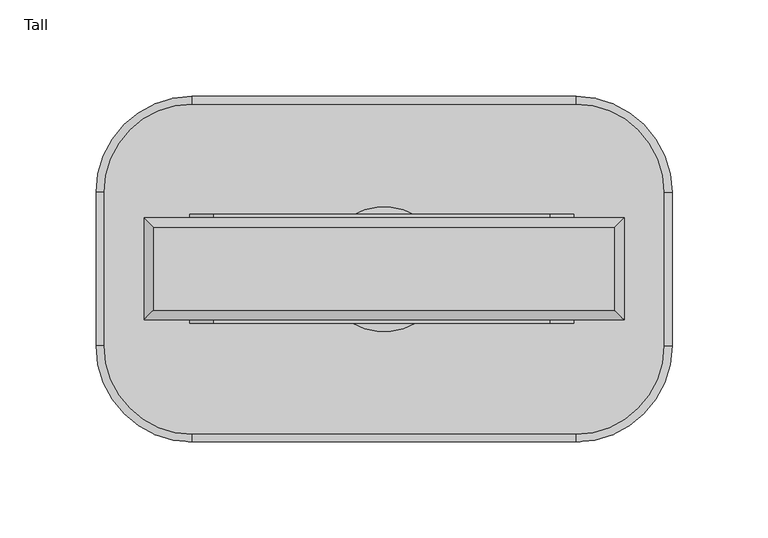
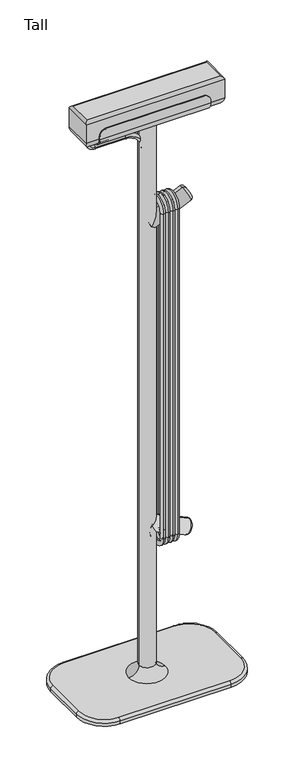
"""IFC4 building model written with IfcOpenShell, lengths in millimetres: furniture geometry, Steelcase EMEA - Flex - Powerstand : Tall."""

from ifc_helpers import new_model, si_unit, point, frame, origin, place, context, project, spatial, polyline, circle_curve, ellipse_curve, trimmed, source, transform, mapped, element, save
from ifc_brep_helpers import plane_surface, cylinder_surface, revolved_surface, advanced_brep


def tall_e2d5bbf9(model_context):
    return source(origin(), model_context, "Body", "AdvancedBrep", [
        advanced_brep(
        [(98.8922673, 26.5, 1076.9), (98.8922673, 11.5, 1061.9), (98.8922673, -11.5, 1061.9), (98.8922673, -26.5, 1076.9), (98.8922673, -26.5, 1081.5), (98.8922673, -28.4, 1081.5), (98.8922673, -28.4, 1076.9010878), (98.8922673, -11.4989122, 1060.0), (98.8922673, 11.5, 1060.0), (98.8922673, 28.4, 1076.9), (98.8922673, 28.4, 1081.5), (98.8922673, 26.5, 1081.5), (-101.1077081, 28.4, 1076.9), (-101.1077081, 11.5, 1060.0), (-101.1077081, -11.4989122, 1060.0), (-101.1077081, -28.4, 1076.9010878), (-101.1077081, -28.4, 1081.5), (-101.1077081, -26.5, 1081.5), (-101.1077081, -26.5, 1076.9), (-101.1077081, -11.5, 1061.9), (-101.1077081, 11.5, 1061.9), (-101.1077081, 26.5, 1076.9), (-101.1077081, 26.5, 1081.5), (-101.1077081, 28.4, 1081.5), (86.3922673, 26.5, 1094.0), (-88.6077081, 26.5, 1094.0), (-88.6077081, -26.5, 1094.0), (86.3922673, -26.5, 1094.0), (-88.6077081, -28.4, 1094.0), (86.3922673, -28.4, 1094.0), (-88.6077081, 28.4, 1094.0), (86.3922673, 28.4, 1094.0)],
        [
            (0, 1, circle_curve(frame((98.8922673, 11.5, 1076.9), z_axis=(-1.0, 0.0, 0.0), x_axis=(0.0, 1.0, 0.0)), 15.0)),
            (1, 2),
            (2, 3, circle_curve(frame((98.8922673, -11.5, 1076.9), z_axis=(-1.0, 0.0, 0.0), x_axis=(0.0, 1.0, 0.0)), 15.0)),
            (3, 4),
            (4, 5),
            (5, 6),
            (6, 7, circle_curve(frame((98.8922673, -11.4989122, 1076.9010878), z_axis=(1.0, 0.0, 0.0), x_axis=(0.0, 1.0, 0.0)), 16.9010878)),
            (7, 8),
            (8, 9, circle_curve(frame((98.8922673, 11.5, 1076.9), z_axis=(1.0, 0.0, 0.0), x_axis=(0.0, 1.0, 0.0)), 16.9)),
            (9, 10),
            (10, 11),
            (11, 0),
            (12, 13, circle_curve(frame((-101.1077081, 11.5, 1076.9), z_axis=(-1.0, 0.0, 0.0), x_axis=(0.0, 1.0, 0.0)), 16.9)),
            (13, 14),
            (14, 15, circle_curve(frame((-101.1077081, -11.4989122, 1076.9010878), z_axis=(-1.0, 0.0, 0.0), x_axis=(0.0, 1.0, 0.0)), 16.9010878)),
            (15, 16),
            (16, 17),
            (17, 18),
            (18, 19, circle_curve(frame((-101.1077081, -11.5, 1076.9), z_axis=(1.0, 0.0, 0.0), x_axis=(0.0, 1.0, 0.0)), 15.0)),
            (19, 20),
            (20, 21, circle_curve(frame((-101.1077081, 11.5, 1076.9), z_axis=(1.0, 0.0, 0.0), x_axis=(0.0, 1.0, 0.0)), 15.0)),
            (21, 22),
            (22, 23),
            (23, 12),
            (21, 0),
            (11, 24, circle_curve(frame((86.3922673, 26.5, 1081.5), z_axis=(0.0, -1.0, 0.0), x_axis=(1.0, 0.0, 0.0)), 12.5)),
            (24, 25),
            (25, 22, circle_curve(frame((-88.6077081, 26.5, 1081.5), z_axis=(0.0, -1.0, 0.0), x_axis=(1.0, 0.0, 0.0)), 12.5)),
            (20, 1),
            (19, 2),
            (18, 3),
            (17, 26, circle_curve(frame((-88.6077081, -26.5, 1081.5), z_axis=(0.0, 1.0, 0.0), x_axis=(1.0, 0.0, 0.0)), 12.5)),
            (26, 27),
            (27, 4, circle_curve(frame((86.3922673, -26.5, 1081.5), z_axis=(0.0, 1.0, 0.0), x_axis=(1.0, 0.0, 0.0)), 12.5)),
            (26, 28),
            (28, 29),
            (29, 27),
            (15, 6),
            (5, 29, circle_curve(frame((86.3922673, -28.4, 1081.5), z_axis=(0.0, -1.0, 0.0), x_axis=(1.0, 0.0, 0.0)), 12.5)),
            (28, 16, circle_curve(frame((-88.6077081, -28.4, 1081.5), z_axis=(0.0, -1.0, 0.0), x_axis=(1.0, 0.0, 0.0)), 12.5)),
            (14, 7),
            (13, 8),
            (12, 9),
            (23, 30, circle_curve(frame((-88.6077081, 28.4, 1081.5), z_axis=(0.0, 1.0, 0.0), x_axis=(1.0, 0.0, 0.0)), 12.5)),
            (30, 31),
            (31, 10, circle_curve(frame((86.3922673, 28.4, 1081.5), z_axis=(0.0, 1.0, 0.0), x_axis=(1.0, 0.0, 0.0)), 12.5)),
            (24, 31),
            (30, 25),
        ],
        [
            plane_surface(frame((98.8922673, 26.5, 1094.0), z_axis=(1.0, 0.0, 0.0), x_axis=(0.0, 0.0, -1.0))),
            plane_surface(frame((-101.1077081, 26.5, 1094.0), z_axis=(-1.0, 0.0, 0.0), x_axis=(0.0, 0.0, 1.0))),
            plane_surface(frame((98.8922673, 26.5, 1094.0), z_axis=(0.0, -1.0, 0.0), x_axis=(-1.0, 0.0, 0.0))),
            revolved_surface(polyline([(-101.1077081, 26.5, 1076.9), (98.89226729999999, 26.5, 1076.9)]), (-101.1077081, 11.5, 1076.9), (-1.0, 0.0, 0.0)),
            plane_surface(frame((98.8922673, 11.5, 1061.9), z_axis=(0.0, 0.0, 1.0), x_axis=(-1.0, 0.0, 0.0))),
            revolved_surface(polyline([(-101.1077081, 3.5, 1076.9), (98.89226729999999, 3.5, 1076.9)]), (-101.1077081, -11.5, 1076.9), (-1.0, 0.0, 0.0)),
            plane_surface(frame((98.8922673, -26.5, 1076.9), z_axis=(0.0, 1.0, 0.0), x_axis=(-1.0, 0.0, 0.0))),
            plane_surface(frame((98.8922673, -26.5, 1094.0), z_axis=(0.0, 0.0, 1.0), x_axis=(-1.0, 0.0, 0.0))),
            plane_surface(frame((98.8922673, -28.4, 1094.0), z_axis=(0.0, -1.0, 0.0), x_axis=(-1.0, 0.0, 0.0))),
            cylinder_surface(frame((-101.1077081, -11.4989122, 1076.9010878), z_axis=(1.0, 0.0, 0.0), x_axis=(0.0, 1.0, 0.0)), 16.9010878),
            plane_surface(frame((98.8922673, -11.4989122, 1060.0), z_axis=(0.0, 0.0, -1.0), x_axis=(-1.0, 0.0, 0.0))),
            cylinder_surface(frame((-101.1077081, 11.5, 1076.9), z_axis=(1.0, 0.0, 0.0), x_axis=(0.0, 1.0, 0.0)), 16.9),
            plane_surface(frame((98.8922673, 28.4, 1076.9), z_axis=(0.0, 1.0, 0.0), x_axis=(-1.0, 0.0, 0.0))),
            plane_surface(frame((98.8922673, 28.4, 1094.0), z_axis=(0.0, 0.0, 1.0), x_axis=(-1.0, 0.0, 0.0))),
            cylinder_surface(frame((-88.6077081, 90.0, 1081.5), z_axis=(0.0, 1.0, 0.0), x_axis=(1.0, 0.0, 0.0)), 12.5),
            cylinder_surface(frame((86.3922673, 90.0, 1081.5), z_axis=(0.0, 1.0, 0.0), x_axis=(1.0, 0.0, 0.0)), 12.5),
        ],
        [
            (0, [[1, 2, 3, 4, 5, 6, 7, 8, 9, 10, 11, 12]]),
            (1, [[13, 14, 15, 16, 17, 18, 19, 20, 21, 22, 23, 24]]),
            (2, [[25, -12, 26, 27, 28, -22]]),
            (3, [[-1, -25, -21, 29]]),
            (4, [[-2, -29, -20, 30]]),
            (5, [[-3, -30, -19, 31]]),
            (6, [[-31, -18, 32, 33, 34, -4]]),
            (7, [[-33, 35, 36, 37]]),
            (8, [[38, -6, 39, -36, 40, -16]]),
            (9, [[-7, -38, -15, 41]]),
            (10, [[-8, -41, -14, 42]]),
            (11, [[-9, -42, -13, 43]]),
            (12, [[-43, -24, 44, 45, 46, -10]]),
            (13, [[-27, 47, -45, 48]]),
            (14, [[-17, -40, -35, -32]]),
            (14, [[-23, -28, -48, -44]]),
            (15, [[-5, -34, -37, -39]]),
            (15, [[-11, -46, -47, -26]]),
        ],
    ),
        advanced_brep(
        [(-105.852797, 4.0, 1075.8013473), (-105.852797, -4.0, 1075.8013473), (-105.852797, 4.0, 1054.9704551), (-105.852797, -4.0, 1054.9704551), (-95.852797, -4.0, 1044.9704551), (-95.852797, 4.0, 1044.9704551), (-40.852797, 4.0, 1044.9704551), (-40.852797, -4.0, 1044.9704551), (-5.852797, -4.0, 1009.9704551), (-5.852797, 4.0, 1009.9704551), (-5.852797, 4.0, 1006.8590643), (-5.852797, -4.0, 1006.8590643)],
        [
            (0, 1, circle_curve(frame((-105.852797, 0.0, 1075.8013473), z_axis=(0.0, 0.0, 1.0), x_axis=(0.0, -1.0, 0.0)), 4.0)),
            (1, 0, circle_curve(frame((-105.852797, 0.0, 1075.8013473), z_axis=(0.0, 0.0, 1.0), x_axis=(0.0, -1.0, 0.0)), 4.0)),
            (0, 2),
            (2, 3, circle_curve(frame((-105.852797, 0.0, 1054.9704551), z_axis=(0.0, 0.0, 1.0), x_axis=(0.0, -1.0, 0.0)), 4.0)),
            (3, 1),
            (3, 2, circle_curve(frame((-105.852797, 0.0, 1054.9704551), z_axis=(0.0, 0.0, 1.0), x_axis=(0.0, -1.0, 0.0)), 4.0)),
            (4, 3, circle_curve(frame((-95.852797, -4.0, 1054.9704551), z_axis=(0.0, 1.0, 0.0), x_axis=(-1.0, 0.0, 0.0)), 10.0)),
            (2, 5, circle_curve(frame((-95.852797, 4.0, 1054.9704551), z_axis=(0.0, -1.0, 0.0), x_axis=(-1.0, 0.0, 0.0)), 10.0)),
            (5, 4, circle_curve(frame((-95.852797, 0.0, 1044.9704551), z_axis=(-1.0, 0.0, 0.0), x_axis=(0.0, -1.0, 0.0)), 4.0)),
            (4, 5, circle_curve(frame((-95.852797, 0.0, 1044.9704551), z_axis=(-1.0, 0.0, 0.0), x_axis=(0.0, -1.0, 0.0)), 4.0)),
            (5, 6),
            (6, 7, circle_curve(frame((-40.852797, 0.0, 1044.9704551), z_axis=(-1.0, 0.0, 0.0), x_axis=(0.0, -1.0, 0.0)), 4.0)),
            (7, 4),
            (7, 6, circle_curve(frame((-40.852797, 0.0, 1044.9704551), z_axis=(-1.0, 0.0, 0.0), x_axis=(0.0, -1.0, 0.0)), 4.0)),
            (8, 7, circle_curve(frame((-40.852797, -4.0, 1009.9704551), z_axis=(0.0, -1.0, 0.0), x_axis=(0.0, 0.0, 1.0)), 35.0)),
            (6, 9, circle_curve(frame((-40.852797, 4.0, 1009.9704551), z_axis=(0.0, 1.0, 0.0), x_axis=(0.0, 0.0, 1.0)), 35.0)),
            (9, 8, circle_curve(frame((-5.852797, 0.0, 1009.9704551), z_axis=(0.0, 0.0, 1.0), x_axis=(0.0, -1.0, 0.0)), 4.0)),
            (8, 9, circle_curve(frame((-5.852797, 0.0, 1009.9704551), z_axis=(0.0, 0.0, 1.0), x_axis=(0.0, -1.0, 0.0)), 4.0)),
            (10, 11, circle_curve(frame((-5.852797, 0.0, 1006.8590643), z_axis=(0.0, 0.0, -1.0), x_axis=(0.0, -1.0, 0.0)), 4.0)),
            (11, 10, circle_curve(frame((-5.852797, 0.0, 1006.8590643), z_axis=(0.0, 0.0, -1.0), x_axis=(0.0, -1.0, 0.0)), 4.0)),
            (9, 10),
            (11, 8),
        ],
        [
            plane_surface(frame((-105.852797, 0.0, 1075.8013473), z_axis=(0.0, 0.0, 1.0), x_axis=(0.0, -1.0, 0.0))),
            cylinder_surface(frame((-105.852797, 0.0, 1075.8013473), z_axis=(0.0, 0.0, 1.0), x_axis=(0.0, -1.0, 0.0)), 4.0),
            revolved_surface(trimmed(ellipse_curve(frame((-105.852797, 0.0, 1054.9704551), z_axis=(0.0, 0.0, 1.0), x_axis=(0.0, -1.0, 0.0)), 4.0, 4.0), [point((-105.852797, 4.0, 1054.9704551))], [point((-105.852797, -4.0, 1054.9704551))], True, "CARTESIAN"), (-95.852797, 0.0, 1054.9704551), (0.0, -1.0, 0.0)),
            revolved_surface(trimmed(ellipse_curve(frame((-105.852797, 0.0, 1054.9704551), z_axis=(0.0, 0.0, 1.0), x_axis=(0.0, -1.0, 0.0)), 4.0, 4.0), [point((-105.852797, -4.0, 1054.9704551))], [point((-105.852797, 4.0, 1054.9704551))], True, "CARTESIAN"), (-95.852797, 0.0, 1054.9704551), (0.0, -1.0, 0.0)),
            cylinder_surface(frame((-95.852797, 0.0, 1044.9704551), z_axis=(-1.0, 0.0, 0.0), x_axis=(0.0, -1.0, 0.0)), 4.0),
            revolved_surface(trimmed(ellipse_curve(frame((-40.852797, 0.0, 1044.9704551), z_axis=(-1.0, 0.0, 0.0), x_axis=(0.0, -1.0, 0.0)), 4.0, 4.0), [point((-40.852797, 4.0, 1044.9704551))], [point((-40.852797, -4.0, 1044.9704551))], True, "CARTESIAN"), (-40.852797, 0.0, 1009.9704551), (0.0, 1.0, 0.0)),
            revolved_surface(trimmed(ellipse_curve(frame((-40.852797, 0.0, 1044.9704551), z_axis=(-1.0, 0.0, 0.0), x_axis=(0.0, -1.0, 0.0)), 4.0, 4.0), [point((-40.852797, -4.0, 1044.9704551))], [point((-40.852797, 4.0, 1044.9704551))], True, "CARTESIAN"), (-40.852797, 0.0, 1009.9704551), (0.0, 1.0, 0.0)),
            plane_surface(frame((-5.852797, 0.0, 1006.8590643), z_axis=(0.0, 0.0, -1.0), x_axis=(0.0, -1.0, 0.0))),
            cylinder_surface(frame((-5.852797, 0.0, 1009.9704551), z_axis=(0.0, 0.0, 1.0), x_axis=(0.0, -1.0, 0.0)), 4.0),
        ],
        [
            (0, [[1, 2]]),
            (1, [[-1, 3, 4, 5]]),
            (1, [[-2, -5, 6, -3]]),
            (2, [[7, -4, 8, 9]]),
            (3, [[-8, -6, -7, 10]]),
            (4, [[-9, 11, 12, 13]]),
            (4, [[-10, -13, 14, -11]]),
            (5, [[15, -12, 16, 17]]),
            (6, [[-16, -14, -15, 18]]),
            (7, [[19, 20]]),
            (8, [[-17, 21, -20, 22]]),
            (8, [[-18, -22, -19, -21]]),
        ],
    ),
        advanced_brep(
        [(125.0, -26.5, 1112.0), (125.0, -26.5, 1076.9), (125.0, 26.5, 1076.9), (125.0, 26.5, 1112.0), (-125.0, 26.5, 1112.0), (-125.0, 26.5, 1076.9), (-125.0, -26.5, 1076.9), (-125.0, -26.5, 1112.0), (110.0, 11.5, 1061.9), (110.0, -11.5, 1061.9), (-110.0, -11.5, 1061.9), (-110.0, 11.5, 1061.9), (120.0, -21.5, 1117.0), (120.0, 21.5, 1117.0), (-120.0, 21.5, 1117.0), (-120.0, -21.5, 1117.0)],
        [
            (0, 1),
            (1, 2),
            (2, 3),
            (3, 0),
            (4, 5),
            (5, 6),
            (6, 7),
            (7, 4),
            (0, 7),
            (6, 1),
            (8, 9),
            (9, 10),
            (10, 11),
            (11, 8),
            (2, 5),
            (4, 3),
            (12, 13),
            (13, 14),
            (14, 15),
            (15, 12),
            (12, 0, ellipse_curve(frame((120.0, -21.5, 1112.0), z_axis=(0.7071067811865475, 0.7071067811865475, 0.0), x_axis=(0.7071067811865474, -0.7071067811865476, 0.0)), 7.0710678, 5.0)),
            (3, 13, ellipse_curve(frame((120.0, 21.5, 1112.0), z_axis=(0.7071067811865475, -0.7071067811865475, 0.0), x_axis=(-0.7071067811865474, -0.7071067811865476, 0.0)), 7.0710678, 5.0)),
            (1, 9, ellipse_curve(frame((110.0, -11.5, 1076.9), z_axis=(0.7071067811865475, 0.7071067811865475, 0.0), x_axis=(0.7071067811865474, -0.7071067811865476, 0.0)), 21.2132034, 15.0)),
            (8, 2, ellipse_curve(frame((110.0, 11.5, 1076.9), z_axis=(0.7071067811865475, -0.7071067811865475, 0.0), x_axis=(-0.7071067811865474, -0.7071067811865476, 0.0)), 21.2132034, 15.0)),
            (15, 7, ellipse_curve(frame((-120.0, -21.5, 1112.0), z_axis=(0.7071067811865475, -0.7071067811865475, 0.0), x_axis=(-0.7071067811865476, -0.7071067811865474, 0.0)), 7.0710678, 5.0)),
            (6, 10, ellipse_curve(frame((-110.0, -11.5, 1076.9), z_axis=(0.7071067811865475, -0.7071067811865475, 0.0), x_axis=(-0.7071067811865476, -0.7071067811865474, 0.0)), 21.2132034, 15.0)),
            (14, 4, ellipse_curve(frame((-120.0, 21.5, 1112.0), z_axis=(-0.7071067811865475, -0.7071067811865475, 0.0), x_axis=(-0.7071067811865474, 0.7071067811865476, 0.0)), 7.0710678, 5.0)),
            (5, 11, ellipse_curve(frame((-110.0, 11.5, 1076.9), z_axis=(-0.7071067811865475, -0.7071067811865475, 0.0), x_axis=(-0.7071067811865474, 0.7071067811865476, 0.0)), 21.2132034, 15.0)),
        ],
        [
            plane_surface(frame((125.0, -26.5, 1117.0), z_axis=(1.0, 0.0, 0.0), x_axis=(0.0, 0.0, -1.0))),
            plane_surface(frame((-125.0, -26.5, 1117.0), z_axis=(-1.0, 0.0, 0.0), x_axis=(0.0, 0.0, 1.0))),
            plane_surface(frame((125.0, -26.5, 1117.0), z_axis=(0.0, -1.0, 0.0), x_axis=(-1.0, 0.0, 0.0))),
            plane_surface(frame((125.0, -26.5, 1061.9), z_axis=(0.0, 0.0, -1.0), x_axis=(-1.0, 0.0, 0.0))),
            plane_surface(frame((125.0, 26.5, 1061.9), z_axis=(0.0, 1.0, 0.0), x_axis=(-1.0, 0.0, 0.0))),
            plane_surface(frame((125.0, 26.5, 1117.0), z_axis=(0.0, 0.0, 1.0), x_axis=(-1.0, 0.0, 0.0))),
            cylinder_surface(frame((120.0, 26.5, 1112.0), z_axis=(0.0, -1.0, 0.0), x_axis=(1.0, 0.0, 0.0)), 5.0),
            cylinder_surface(frame((110.0, 26.5, 1076.9), z_axis=(0.0, -1.0, 0.0), x_axis=(1.0, 0.0, 0.0)), 15.0),
            cylinder_surface(frame((125.0, -21.5, 1112.0), z_axis=(-1.0, 0.0, 0.0), x_axis=(0.0, -1.0, 0.0)), 5.0),
            cylinder_surface(frame((125.0, -11.5, 1076.9), z_axis=(-1.0, 0.0, 0.0), x_axis=(0.0, -1.0, 0.0)), 15.0),
            cylinder_surface(frame((-120.0, -26.5, 1112.0), z_axis=(0.0, 1.0, 0.0), x_axis=(-1.0, 0.0, 0.0)), 5.0),
            cylinder_surface(frame((-110.0, -26.5, 1076.9), z_axis=(0.0, 1.0, 0.0), x_axis=(-1.0, 0.0, 0.0)), 15.0),
            cylinder_surface(frame((-125.0, 21.5, 1112.0), z_axis=(1.0, 0.0, 0.0), x_axis=(0.0, 1.0, 0.0)), 5.0),
            cylinder_surface(frame((-125.0, 11.5, 1076.9), z_axis=(1.0, 0.0, 0.0), x_axis=(0.0, 1.0, 0.0)), 15.0),
        ],
        [
            (0, [[1, 2, 3, 4]]),
            (1, [[5, 6, 7, 8]]),
            (2, [[-1, 9, -7, 10]]),
            (3, [[11, 12, 13, 14]]),
            (4, [[-3, 15, -5, 16]]),
            (5, [[17, 18, 19, 20]]),
            (6, [[21, -4, 22, -17]]),
            (7, [[23, -11, 24, -2]]),
            (8, [[-21, -20, 25, -9]]),
            (9, [[-23, -10, 26, -12]]),
            (10, [[-25, -19, 27, -8]]),
            (11, [[-26, -6, 28, -13]]),
            (12, [[-22, -16, -27, -18]]),
            (13, [[-24, -14, -28, -15]]),
        ],
    ),
        advanced_brep(
        [(18.0, 22.0, 890.0), (18.0, -22.0, 890.0), (18.0, -14.0, 890.0), (18.0, 14.0, 890.0), (18.0, 14.0, 270.0), (18.0, 22.0, 270.0), (18.0, -22.0, 270.0), (18.0, -14.0, 270.0)],
        [
            (0, 1, circle_curve(frame((18.0, 0.0, 890.0), z_axis=(1.0, 0.0, 0.0), x_axis=(0.0, -1.0, 0.0)), 22.0)),
            (1, 2, circle_curve(frame((18.0, -18.0, 890.0), z_axis=(0.0, 0.0, 1.0), x_axis=(0.0, -1.0, 0.0)), 4.0)),
            (2, 3, circle_curve(frame((18.0, 0.0, 890.0), z_axis=(-1.0, 0.0, 0.0), x_axis=(0.0, -1.0, 0.0)), 14.0)),
            (3, 0, circle_curve(frame((18.0, 18.0, 890.0), z_axis=(0.0, 0.0, 1.0), x_axis=(0.0, 1.0, 0.0)), 4.0)),
            (2, 1, circle_curve(frame((18.0, -18.0, 890.0), z_axis=(0.0, 0.0, 1.0), x_axis=(0.0, -1.0, 0.0)), 4.0)),
            (0, 3, circle_curve(frame((18.0, 18.0, 890.0), z_axis=(0.0, 0.0, 1.0), x_axis=(0.0, 1.0, 0.0)), 4.0)),
            (3, 4),
            (4, 5, circle_curve(frame((18.0, 18.0, 270.0), z_axis=(0.0, 0.0, 1.0), x_axis=(0.0, 1.0, 0.0)), 4.0)),
            (5, 0),
            (5, 4, circle_curve(frame((18.0, 18.0, 270.0), z_axis=(0.0, 0.0, 1.0), x_axis=(0.0, 1.0, 0.0)), 4.0)),
            (6, 5, circle_curve(frame((18.0, 0.0, 270.0), z_axis=(1.0, 0.0, 0.0), x_axis=(0.0, 1.0, 0.0)), 22.0)),
            (4, 7, circle_curve(frame((18.0, 0.0, 270.0), z_axis=(-1.0, 0.0, 0.0), x_axis=(0.0, 1.0, 0.0)), 14.0)),
            (7, 6, circle_curve(frame((18.0, -18.0, 270.0), z_axis=(0.0, 0.0, -1.0), x_axis=(0.0, -1.0, 0.0)), 4.0)),
            (6, 7, circle_curve(frame((18.0, -18.0, 270.0), z_axis=(0.0, 0.0, -1.0), x_axis=(0.0, -1.0, 0.0)), 4.0)),
            (7, 2),
            (1, 6),
        ],
        [
            revolved_surface(trimmed(ellipse_curve(frame((18.0, -18.0, 890.0), z_axis=(0.0, 0.0, -1.0), x_axis=(0.0, -1.0, 0.0)), 4.0, 4.0), [point((18.0, -14.0, 890.0))], [point((18.0, -22.0, 890.0))], True, "CARTESIAN"), (18.0, 0.0, 890.0), (-1.0, 0.0, 0.0)),
            revolved_surface(trimmed(ellipse_curve(frame((18.0, -18.0, 890.0), z_axis=(0.0, 0.0, -1.0), x_axis=(0.0, -1.0, 0.0)), 4.0, 4.0), [point((18.0, -22.0, 890.0))], [point((18.0, -14.0, 890.0))], True, "CARTESIAN"), (18.0, 0.0, 890.0), (-1.0, 0.0, 0.0)),
            cylinder_surface(frame((18.0, 18.0, 890.0), z_axis=(0.0, 0.0, 1.0), x_axis=(0.0, 1.0, 0.0)), 4.0),
            revolved_surface(trimmed(ellipse_curve(frame((18.0, 18.0, 270.0), z_axis=(0.0, 0.0, 1.0), x_axis=(0.0, 1.0, 0.0)), 4.0, 4.0), [point((18.0, 14.0, 270.0))], [point((18.0, 22.0, 270.0))], True, "CARTESIAN"), (18.0, 0.0, 270.0), (-1.0, 0.0, 0.0)),
            revolved_surface(trimmed(ellipse_curve(frame((18.0, 18.0, 270.0), z_axis=(0.0, 0.0, 1.0), x_axis=(0.0, 1.0, 0.0)), 4.0, 4.0), [point((18.0, 22.0, 270.0))], [point((18.0, 14.0, 270.0))], True, "CARTESIAN"), (18.0, 0.0, 270.0), (-1.0, 0.0, 0.0)),
            cylinder_surface(frame((18.0, -18.0, 270.0), z_axis=(0.0, 0.0, -1.0), x_axis=(0.0, -1.0, 0.0)), 4.0),
        ],
        [
            (0, [[1, 2, 3, 4]]),
            (1, [[-3, 5, -1, 6]]),
            (2, [[-4, 7, 8, 9]]),
            (2, [[-6, -9, 10, -7]]),
            (3, [[11, -8, 12, 13]]),
            (4, [[-12, -10, -11, 14]]),
            (5, [[-13, 15, -2, 16]]),
            (5, [[-14, -16, -5, -15]]),
        ],
    ),
        advanced_brep(
        [(26.5, 22.0, 890.0), (26.5, -22.0, 890.0), (26.5, -14.0, 890.0), (26.5, 14.0, 890.0), (26.5, 14.0, 270.0), (26.5, 22.0, 270.0), (26.5, -22.0, 270.0), (26.5, -14.0, 270.0)],
        [
            (0, 1, circle_curve(frame((26.5, 0.0, 890.0), z_axis=(1.0, 0.0, 0.0), x_axis=(0.0, -1.0, 0.0)), 22.0)),
            (1, 2, circle_curve(frame((26.5, -18.0, 890.0), z_axis=(0.0, 0.0, 1.0), x_axis=(0.0, -1.0, 0.0)), 4.0)),
            (2, 3, circle_curve(frame((26.5, 0.0, 890.0), z_axis=(-1.0, 0.0, 0.0), x_axis=(0.0, -1.0, 0.0)), 14.0)),
            (3, 0, circle_curve(frame((26.5, 18.0, 890.0), z_axis=(0.0, 0.0, 1.0), x_axis=(0.0, 1.0, 0.0)), 4.0)),
            (2, 1, circle_curve(frame((26.5, -18.0, 890.0), z_axis=(0.0, 0.0, 1.0), x_axis=(0.0, -1.0, 0.0)), 4.0)),
            (0, 3, circle_curve(frame((26.5, 18.0, 890.0), z_axis=(0.0, 0.0, 1.0), x_axis=(0.0, 1.0, 0.0)), 4.0)),
            (3, 4),
            (4, 5, circle_curve(frame((26.5, 18.0, 270.0), z_axis=(0.0, 0.0, 1.0), x_axis=(0.0, 1.0, 0.0)), 4.0)),
            (5, 0),
            (5, 4, circle_curve(frame((26.5, 18.0, 270.0), z_axis=(0.0, 0.0, 1.0), x_axis=(0.0, 1.0, 0.0)), 4.0)),
            (6, 5, circle_curve(frame((26.5, 0.0, 270.0), z_axis=(1.0, 0.0, 0.0), x_axis=(0.0, 1.0, 0.0)), 22.0)),
            (4, 7, circle_curve(frame((26.5, 0.0, 270.0), z_axis=(-1.0, 0.0, 0.0), x_axis=(0.0, 1.0, 0.0)), 14.0)),
            (7, 6, circle_curve(frame((26.5, -18.0, 270.0), z_axis=(0.0, 0.0, -1.0), x_axis=(0.0, -1.0, 0.0)), 4.0)),
            (6, 7, circle_curve(frame((26.5, -18.0, 270.0), z_axis=(0.0, 0.0, -1.0), x_axis=(0.0, -1.0, 0.0)), 4.0)),
            (7, 2),
            (1, 6),
        ],
        [
            revolved_surface(trimmed(ellipse_curve(frame((26.5, -18.0, 890.0), z_axis=(0.0, 0.0, -1.0), x_axis=(0.0, -1.0, 0.0)), 4.0, 4.0), [point((26.5, -14.0, 890.0))], [point((26.5, -22.0, 890.0))], True, "CARTESIAN"), (18.0, 0.0, 890.0), (-1.0, 0.0, 0.0)),
            revolved_surface(trimmed(ellipse_curve(frame((26.5, -18.0, 890.0), z_axis=(0.0, 0.0, -1.0), x_axis=(0.0, -1.0, 0.0)), 4.0, 4.0), [point((26.5, -22.0, 890.0))], [point((26.5, -14.0, 890.0))], True, "CARTESIAN"), (18.0, 0.0, 890.0), (-1.0, 0.0, 0.0)),
            cylinder_surface(frame((26.5, 18.0, 890.0), z_axis=(0.0, 0.0, 1.0), x_axis=(0.0, 1.0, 0.0)), 4.0),
            revolved_surface(trimmed(ellipse_curve(frame((26.5, 18.0, 270.0), z_axis=(0.0, 0.0, 1.0), x_axis=(0.0, 1.0, 0.0)), 4.0, 4.0), [point((26.5, 14.0, 270.0))], [point((26.5, 22.0, 270.0))], True, "CARTESIAN"), (18.0, 0.0, 270.0), (-1.0, 0.0, 0.0)),
            revolved_surface(trimmed(ellipse_curve(frame((26.5, 18.0, 270.0), z_axis=(0.0, 0.0, 1.0), x_axis=(0.0, 1.0, 0.0)), 4.0, 4.0), [point((26.5, 22.0, 270.0))], [point((26.5, 14.0, 270.0))], True, "CARTESIAN"), (18.0, 0.0, 270.0), (-1.0, 0.0, 0.0)),
            cylinder_surface(frame((26.5, -18.0, 270.0), z_axis=(0.0, 0.0, -1.0), x_axis=(0.0, -1.0, 0.0)), 4.0),
        ],
        [
            (0, [[1, 2, 3, 4]]),
            (1, [[-3, 5, -1, 6]]),
            (2, [[-4, 7, 8, 9]]),
            (2, [[-6, -9, 10, -7]]),
            (3, [[11, -8, 12, 13]]),
            (4, [[-12, -10, -11, 14]]),
            (5, [[-13, 15, -2, 16]]),
            (5, [[-14, -16, -5, -15]]),
        ],
    ),
        advanced_brep(
        [(35.0, 22.0, 890.0), (35.0, -22.0, 890.0), (35.0, -14.0, 890.0), (35.0, 14.0, 890.0), (35.0, 14.0, 270.0), (35.0, 22.0, 270.0), (35.0, -22.0, 270.0), (35.0, -14.0, 270.0)],
        [
            (0, 1, circle_curve(frame((35.0, 0.0, 890.0), z_axis=(1.0, 0.0, 0.0), x_axis=(0.0, -1.0, 0.0)), 22.0)),
            (1, 2, circle_curve(frame((35.0, -18.0, 890.0), z_axis=(0.0, 0.0, 1.0), x_axis=(0.0, -1.0, 0.0)), 4.0)),
            (2, 3, circle_curve(frame((35.0, 0.0, 890.0), z_axis=(-1.0, 0.0, 0.0), x_axis=(0.0, -1.0, 0.0)), 14.0)),
            (3, 0, circle_curve(frame((35.0, 18.0, 890.0), z_axis=(0.0, 0.0, 1.0), x_axis=(0.0, 1.0, 0.0)), 4.0)),
            (2, 1, circle_curve(frame((35.0, -18.0, 890.0), z_axis=(0.0, 0.0, 1.0), x_axis=(0.0, -1.0, 0.0)), 4.0)),
            (0, 3, circle_curve(frame((35.0, 18.0, 890.0), z_axis=(0.0, 0.0, 1.0), x_axis=(0.0, 1.0, 0.0)), 4.0)),
            (3, 4),
            (4, 5, circle_curve(frame((35.0, 18.0, 270.0), z_axis=(0.0, 0.0, 1.0), x_axis=(0.0, 1.0, 0.0)), 4.0)),
            (5, 0),
            (5, 4, circle_curve(frame((35.0, 18.0, 270.0), z_axis=(0.0, 0.0, 1.0), x_axis=(0.0, 1.0, 0.0)), 4.0)),
            (6, 5, circle_curve(frame((35.0, 0.0, 270.0), z_axis=(1.0, 0.0, 0.0), x_axis=(0.0, 1.0, 0.0)), 22.0)),
            (4, 7, circle_curve(frame((35.0, 0.0, 270.0), z_axis=(-1.0, 0.0, 0.0), x_axis=(0.0, 1.0, 0.0)), 14.0)),
            (7, 6, circle_curve(frame((35.0, -18.0, 270.0), z_axis=(0.0, 0.0, -1.0), x_axis=(0.0, -1.0, 0.0)), 4.0)),
            (6, 7, circle_curve(frame((35.0, -18.0, 270.0), z_axis=(0.0, 0.0, -1.0), x_axis=(0.0, -1.0, 0.0)), 4.0)),
            (7, 2),
            (1, 6),
        ],
        [
            revolved_surface(trimmed(ellipse_curve(frame((35.0, -18.0, 890.0), z_axis=(0.0, 0.0, -1.0), x_axis=(0.0, -1.0, 0.0)), 4.0, 4.0), [point((35.0, -14.0, 890.0))], [point((35.0, -22.0, 890.0))], True, "CARTESIAN"), (18.0, 0.0, 890.0), (-1.0, 0.0, 0.0)),
            revolved_surface(trimmed(ellipse_curve(frame((35.0, -18.0, 890.0), z_axis=(0.0, 0.0, -1.0), x_axis=(0.0, -1.0, 0.0)), 4.0, 4.0), [point((35.0, -22.0, 890.0))], [point((35.0, -14.0, 890.0))], True, "CARTESIAN"), (18.0, 0.0, 890.0), (-1.0, 0.0, 0.0)),
            cylinder_surface(frame((35.0, 18.0, 890.0), z_axis=(0.0, 0.0, 1.0), x_axis=(0.0, 1.0, 0.0)), 4.0),
            revolved_surface(trimmed(ellipse_curve(frame((35.0, 18.0, 270.0), z_axis=(0.0, 0.0, 1.0), x_axis=(0.0, 1.0, 0.0)), 4.0, 4.0), [point((35.0, 14.0, 270.0))], [point((35.0, 22.0, 270.0))], True, "CARTESIAN"), (18.0, 0.0, 270.0), (-1.0, 0.0, 0.0)),
            revolved_surface(trimmed(ellipse_curve(frame((35.0, 18.0, 270.0), z_axis=(0.0, 0.0, 1.0), x_axis=(0.0, 1.0, 0.0)), 4.0, 4.0), [point((35.0, 22.0, 270.0))], [point((35.0, 14.0, 270.0))], True, "CARTESIAN"), (18.0, 0.0, 270.0), (-1.0, 0.0, 0.0)),
            cylinder_surface(frame((35.0, -18.0, 270.0), z_axis=(0.0, 0.0, -1.0), x_axis=(0.0, -1.0, 0.0)), 4.0),
        ],
        [
            (0, [[1, 2, 3, 4]]),
            (1, [[-3, 5, -1, 6]]),
            (2, [[-4, 7, 8, 9]]),
            (2, [[-6, -9, 10, -7]]),
            (3, [[11, -8, 12, 13]]),
            (4, [[-12, -10, -11, 14]]),
            (5, [[-13, 15, -2, 16]]),
            (5, [[-14, -16, -5, -15]]),
        ],
    ),
        advanced_brep(
        [(43.5, 22.0, 890.0), (43.5, -22.0, 890.0), (43.5, -14.0, 890.0), (43.5, 14.0, 890.0), (43.5, 14.0, 270.0), (43.5, 22.0, 270.0), (43.5, -22.0, 270.0), (43.5, -14.0, 270.0)],
        [
            (0, 1, circle_curve(frame((43.5, 0.0, 890.0), z_axis=(1.0, 0.0, 0.0), x_axis=(0.0, -1.0, 0.0)), 22.0)),
            (1, 2, circle_curve(frame((43.5, -18.0, 890.0), z_axis=(0.0, 0.0, 1.0), x_axis=(0.0, -1.0, 0.0)), 4.0)),
            (2, 3, circle_curve(frame((43.5, 0.0, 890.0), z_axis=(-1.0, 0.0, 0.0), x_axis=(0.0, -1.0, 0.0)), 14.0)),
            (3, 0, circle_curve(frame((43.5, 18.0, 890.0), z_axis=(0.0, 0.0, 1.0), x_axis=(0.0, 1.0, 0.0)), 4.0)),
            (2, 1, circle_curve(frame((43.5, -18.0, 890.0), z_axis=(0.0, 0.0, 1.0), x_axis=(0.0, -1.0, 0.0)), 4.0)),
            (0, 3, circle_curve(frame((43.5, 18.0, 890.0), z_axis=(0.0, 0.0, 1.0), x_axis=(0.0, 1.0, 0.0)), 4.0)),
            (3, 4),
            (4, 5, circle_curve(frame((43.5, 18.0, 270.0), z_axis=(0.0, 0.0, 1.0), x_axis=(0.0, 1.0, 0.0)), 4.0)),
            (5, 0),
            (5, 4, circle_curve(frame((43.5, 18.0, 270.0), z_axis=(0.0, 0.0, 1.0), x_axis=(0.0, 1.0, 0.0)), 4.0)),
            (6, 5, circle_curve(frame((43.5, 0.0, 270.0), z_axis=(1.0, 0.0, 0.0), x_axis=(0.0, 1.0, 0.0)), 22.0)),
            (4, 7, circle_curve(frame((43.5, 0.0, 270.0), z_axis=(-1.0, 0.0, 0.0), x_axis=(0.0, 1.0, 0.0)), 14.0)),
            (7, 6, circle_curve(frame((43.5, -18.0, 270.0), z_axis=(0.0, 0.0, -1.0), x_axis=(0.0, -1.0, 0.0)), 4.0)),
            (6, 7, circle_curve(frame((43.5, -18.0, 270.0), z_axis=(0.0, 0.0, -1.0), x_axis=(0.0, -1.0, 0.0)), 4.0)),
            (7, 2),
            (1, 6),
        ],
        [
            revolved_surface(trimmed(ellipse_curve(frame((43.5, -18.0, 890.0), z_axis=(0.0, 0.0, -1.0), x_axis=(0.0, -1.0, 0.0)), 4.0, 4.0), [point((43.5, -14.0, 890.0))], [point((43.5, -22.0, 890.0))], True, "CARTESIAN"), (18.0, 0.0, 890.0), (-1.0, 0.0, 0.0)),
            revolved_surface(trimmed(ellipse_curve(frame((43.5, -18.0, 890.0), z_axis=(0.0, 0.0, -1.0), x_axis=(0.0, -1.0, 0.0)), 4.0, 4.0), [point((43.5, -22.0, 890.0))], [point((43.5, -14.0, 890.0))], True, "CARTESIAN"), (18.0, 0.0, 890.0), (-1.0, 0.0, 0.0)),
            cylinder_surface(frame((43.5, 18.0, 890.0), z_axis=(0.0, 0.0, 1.0), x_axis=(0.0, 1.0, 0.0)), 4.0),
            revolved_surface(trimmed(ellipse_curve(frame((43.5, 18.0, 270.0), z_axis=(0.0, 0.0, 1.0), x_axis=(0.0, 1.0, 0.0)), 4.0, 4.0), [point((43.5, 14.0, 270.0))], [point((43.5, 22.0, 270.0))], True, "CARTESIAN"), (18.0, 0.0, 270.0), (-1.0, 0.0, 0.0)),
            revolved_surface(trimmed(ellipse_curve(frame((43.5, 18.0, 270.0), z_axis=(0.0, 0.0, 1.0), x_axis=(0.0, 1.0, 0.0)), 4.0, 4.0), [point((43.5, 22.0, 270.0))], [point((43.5, 14.0, 270.0))], True, "CARTESIAN"), (18.0, 0.0, 270.0), (-1.0, 0.0, 0.0)),
            cylinder_surface(frame((43.5, -18.0, 270.0), z_axis=(0.0, 0.0, -1.0), x_axis=(0.0, -1.0, 0.0)), 4.0),
        ],
        [
            (0, [[1, 2, 3, 4]]),
            (1, [[-3, 5, -1, 6]]),
            (2, [[-4, 7, 8, 9]]),
            (2, [[-6, -9, 10, -7]]),
            (3, [[11, -8, 12, 13]]),
            (4, [[-12, -10, -11, 14]]),
            (5, [[-13, 15, -2, 16]]),
            (5, [[-14, -16, -5, -15]]),
        ],
    ),
        advanced_brep(
        [(73.9100062, 0.0, 261.529813), (70.1064418, 0.0, 253.3730429), (77.7135705, 0.0, 269.6865831), (5.9166557, 0.0, 308.6829239), (-5.9166557, 0.0, 283.3063059), (0.0, 0.0, 295.9946149), (75.2951229, 0.0, 276.3312133), (63.4618116, 0.0, 250.9545953)],
        [
            (0, 1),
            (1, 2, circle_curve(frame((73.9100062, 0.0, 261.529813), z_axis=(0.9063077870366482, 0.0, -0.4226182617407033), x_axis=(-0.4226182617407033, 0.0, -0.9063077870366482)), 9.0)),
            (2, 0),
            (2, 1, circle_curve(frame((73.9100062, 0.0, 261.529813), z_axis=(0.9063077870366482, 0.0, -0.4226182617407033), x_axis=(-0.4226182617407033, 0.0, -0.9063077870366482)), 9.0)),
            (3, 4, circle_curve(frame((0.0, 0.0, 295.9946149), z_axis=(-0.9063077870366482, 0.0, 0.4226182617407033), x_axis=(-0.4226182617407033, 0.0, -0.9063077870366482)), 14.0)),
            (4, 5),
            (5, 3),
            (4, 3, circle_curve(frame((0.0, 0.0, 295.9946149), z_axis=(-0.9063077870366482, 0.0, 0.4226182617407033), x_axis=(-0.4226182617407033, 0.0, -0.9063077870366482)), 14.0)),
            (6, 7, circle_curve(frame((69.3784672, 0.0, 263.6429043), z_axis=(-0.9063077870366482, 0.0, 0.4226182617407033), x_axis=(-0.4226182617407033, 0.0, -0.9063077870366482)), 14.0)),
            (7, 4),
            (3, 6),
            (7, 6, circle_curve(frame((69.3784672, 0.0, 263.6429043), z_axis=(-0.9063077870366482, 0.0, 0.4226182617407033), x_axis=(-0.4226182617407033, 0.0, -0.9063077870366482)), 14.0)),
            (1, 7, circle_curve(frame((65.5749029, 0.0, 255.4861342), z_axis=(0.0, 1.0, 0.0), x_axis=(1.0, 0.0, 0.0)), 5.0)),
            (6, 2, circle_curve(frame((73.1820316, 0.0, 271.7996744), z_axis=(0.0, 1.0, 0.0), x_axis=(0.6427876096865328, 0.0, -0.7660444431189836)), 5.0)),
        ],
        [
            plane_surface(frame((73.9100062, 0.0, 261.529813), z_axis=(0.9063077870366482, 0.0, -0.4226182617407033), x_axis=(-0.4226182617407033, 0.0, -0.9063077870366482))),
            plane_surface(frame((0.0, 0.0, 295.9946149), z_axis=(-0.9063077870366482, 0.0, 0.4226182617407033), x_axis=(-0.4226182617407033, 0.0, -0.9063077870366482))),
            cylinder_surface(frame((78.4415451, 0.0, 259.4167217), z_axis=(0.9063077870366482, 0.0, -0.4226182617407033), x_axis=(-0.4226182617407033, 0.0, -0.9063077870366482)), 14.0),
            revolved_surface(trimmed(ellipse_curve(frame((65.5749029, 0.0, 255.4861342), z_axis=(0.0, -1.0, 0.0), x_axis=(1.0, 0.0, 0.0)), 5.0, 5.0), [point((63.4618116, 0.0, 250.9545953))], [point((70.1064418, 0.0, 253.3730429))], True, "CARTESIAN"), (78.4415451, 0.0, 259.4167217), (0.9063077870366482, 0.0, -0.4226182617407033)),
        ],
        [
            (0, [[1, 2, 3]]),
            (0, [[-3, 4, -1]]),
            (1, [[5, 6, 7]]),
            (1, [[8, -7, -6]]),
            (2, [[9, 10, -5, 11]]),
            (2, [[12, -11, -8, -10]]),
            (3, [[-2, 13, -9, 14]]),
            (3, [[-4, -14, -12, -13]]),
        ],
    ),
        advanced_brep(
        [(5.9166557, 0.0, 853.3170761), (-5.9166557, 0.0, 878.6936941), (63.4618116, 0.0, 911.0454047), (75.2951229, 0.0, 885.6687867), (0.0, 0.0, 866.0053851), (77.7135705, 0.0, 892.3134169), (70.1064418, 0.0, 908.6269571), (73.9100062, 0.0, 900.470187)],
        [
            (0, 1, circle_curve(frame((0.0, 0.0, 866.0053851), z_axis=(0.906307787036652, 0.0, 0.4226182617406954), x_axis=(-0.4226182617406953, 0.0, 0.9063077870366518)), 14.0)),
            (1, 2),
            (2, 3, circle_curve(frame((69.3784672, 0.0, 898.3570957), z_axis=(-0.906307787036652, 0.0, -0.4226182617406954), x_axis=(-0.4226182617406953, 0.0, 0.9063077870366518)), 14.0)),
            (3, 0),
            (1, 0, circle_curve(frame((0.0, 0.0, 866.0053851), z_axis=(0.906307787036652, 0.0, 0.4226182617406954), x_axis=(-0.4226182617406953, 0.0, 0.9063077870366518)), 14.0)),
            (3, 2, circle_curve(frame((69.3784672, 0.0, 898.3570957), z_axis=(-0.906307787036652, 0.0, -0.4226182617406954), x_axis=(-0.4226182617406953, 0.0, 0.9063077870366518)), 14.0)),
            (4, 1),
            (0, 4),
            (5, 6, circle_curve(frame((73.9100062, 0.0, 900.470187), z_axis=(0.906307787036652, 0.0, 0.4226182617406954), x_axis=(-0.4226182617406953, 0.0, 0.9063077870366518)), 9.0)),
            (6, 7),
            (7, 5),
            (6, 5, circle_curve(frame((73.9100062, 0.0, 900.470187), z_axis=(0.906307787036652, 0.0, 0.4226182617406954), x_axis=(-0.4226182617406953, 0.0, 0.9063077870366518)), 9.0)),
            (2, 6, circle_curve(frame((65.5749029, 0.0, 906.5138658), z_axis=(0.0, 1.0000000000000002, 0.0), x_axis=(1.0, 0.0, 0.0)), 5.0)),
            (5, 3, circle_curve(frame((73.1820316, 0.0, 890.2003256), z_axis=(0.0, 1.0000000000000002, 0.0), x_axis=(0.6427876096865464, 0.0, 0.7660444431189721)), 5.0)),
        ],
        [
            cylinder_surface(frame((82.973084, 0.0, 904.6963696), z_axis=(-0.9063077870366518, 0.0, -0.4226182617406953), x_axis=(-0.4226182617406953, 0.0, 0.9063077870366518)), 14.0),
            plane_surface(frame((0.0, 0.0, 866.0053851), z_axis=(-0.9063077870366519, 0.0, -0.42261826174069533), x_axis=(-0.42261826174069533, 0.0, 0.9063077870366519))),
            plane_surface(frame((73.9100062, 0.0, 900.470187), z_axis=(0.9063077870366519, 0.0, 0.42261826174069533), x_axis=(-0.42261826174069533, 0.0, 0.9063077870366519))),
            revolved_surface(trimmed(ellipse_curve(frame((65.5749029, 0.0, 906.5138658), z_axis=(0.0, -1.0000000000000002, 0.0), x_axis=(1.0, 0.0, 0.0)), 5.0, 5.0), [point((70.1064418, 0.0, 908.6269571))], [point((63.4618116, 0.0, 911.0454047))], True, "CARTESIAN"), (82.973084, 0.0, 904.6963696), (-0.9063077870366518, 0.0, -0.4226182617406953)),
        ],
        [
            (0, [[1, 2, 3, 4]]),
            (0, [[5, -4, 6, -2]]),
            (1, [[7, -1, 8]]),
            (1, [[-8, -5, -7]]),
            (2, [[9, 10, 11]]),
            (2, [[12, -11, -10]]),
            (3, [[-3, 13, -9, 14]]),
            (3, [[-6, -14, -12, -13]]),
        ],
    ),
        advanced_brep(
        [(150.0, 40.0, 6.0), (100.0, 90.0, 6.0), (100.0, 86.0, 10.0), (146.0, 40.0, 10.0), (150.0, 40.0, 0.0), (100.0, 90.0, 0.0), (146.0, -40.0, 10.0), (150.0, -40.0, 6.0), (150.0, -40.0, 0.0), (100.0, -86.0, 10.0), (100.0, -90.0, 6.0), (100.0, -90.0, 0.0), (-100.0, -86.0, 10.0), (-100.0, -90.0, 6.0), (-100.0, -90.0, 0.0), (-146.0, -40.0, 10.0), (-150.0, -40.0, 6.0), (-150.0, -40.0, 0.0), (-146.0, 40.0, 10.0), (-150.0, 40.0, 6.0), (-150.0, 40.0, 0.0), (-100.0, 86.0, 10.0), (-100.0, 90.0, 6.0), (-100.0, 90.0, 0.0), (-32.5, 0.0, 10.0), (32.5, 0.0, 10.0), (14.5, 0.0, 1060.0), (-14.5, 0.0, 1060.0), (0.0, 0.0, 1060.0), (14.5, 0.0, 28.0), (-14.5, 0.0, 28.0)],
        [
            (0, 1, circle_curve(frame((100.0, 40.0, 6.0), z_axis=(0.0, 0.0, 1.0), x_axis=(0.0, 1.0, 0.0)), 50.0)),
            (1, 2, circle_curve(frame((100.0, 86.0, 6.0), z_axis=(1.0, 0.0, 0.0), x_axis=(0.0, 1.0, 0.0)), 4.0)),
            (2, 3, circle_curve(frame((100.0, 40.0, 10.0), z_axis=(0.0, 0.0, -1.0), x_axis=(0.0, 1.0, 0.0)), 46.0)),
            (3, 0, circle_curve(frame((146.0, 40.0, 6.0), z_axis=(0.0, 1.0, 0.0), x_axis=(1.0, 0.0, 0.0)), 4.0)),
            (0, 4),
            (4, 5, circle_curve(frame((100.0, 40.0, 0.0), z_axis=(0.0, 0.0, 1.0), x_axis=(0.0, 1.0, 0.0)), 50.0)),
            (5, 1),
            (3, 6),
            (6, 7, circle_curve(frame((146.0, -40.0, 6.0), z_axis=(0.0, 1.0, 0.0), x_axis=(1.0, 0.0, 0.0)), 4.0)),
            (7, 0),
            (7, 8),
            (8, 4),
            (6, 9, circle_curve(frame((100.0, -40.0, 10.0), z_axis=(0.0, 0.0, -1.0), x_axis=(1.0, 0.0, 0.0)), 46.0)),
            (9, 10, circle_curve(frame((100.0, -86.0, 6.0), z_axis=(1.0, 0.0, 0.0), x_axis=(0.0, -1.0, 0.0)), 4.0)),
            (10, 7, circle_curve(frame((100.0, -40.0, 6.0), z_axis=(0.0, 0.0, 1.0), x_axis=(1.0, 0.0, 0.0)), 50.0)),
            (10, 11),
            (11, 8, circle_curve(frame((100.0, -40.0, 0.0), z_axis=(0.0, 0.0, 1.0), x_axis=(1.0, 0.0, 0.0)), 50.0)),
            (9, 12),
            (12, 13, circle_curve(frame((-100.0, -86.0, 6.0), z_axis=(1.0, 0.0, 0.0), x_axis=(0.0, -1.0, 0.0)), 4.0)),
            (13, 10),
            (13, 14),
            (14, 11),
            (12, 15, circle_curve(frame((-100.0, -40.0, 10.0), z_axis=(0.0, 0.0, -1.0), x_axis=(0.0, -1.0, 0.0)), 46.0)),
            (15, 16, circle_curve(frame((-146.0, -40.0, 6.0), z_axis=(0.0, -1.0, 0.0), x_axis=(-1.0, 0.0, 0.0)), 4.0)),
            (16, 13, circle_curve(frame((-100.0, -40.0, 6.0), z_axis=(0.0, 0.0, 1.0), x_axis=(0.0, -1.0, 0.0)), 50.0)),
            (16, 17),
            (17, 14, circle_curve(frame((-100.0, -40.0, 0.0), z_axis=(0.0, 0.0, 1.0), x_axis=(0.0, -1.0, 0.0)), 50.0)),
            (15, 18),
            (18, 19, circle_curve(frame((-146.0, 40.0, 6.0), z_axis=(0.0, -1.0, 0.0), x_axis=(-1.0, 0.0, 0.0)), 4.0)),
            (19, 16),
            (19, 20),
            (20, 17),
            (18, 21, circle_curve(frame((-100.0, 40.0, 10.0), z_axis=(0.0, 0.0, -1.0), x_axis=(-1.0, 0.0, 0.0)), 46.0)),
            (21, 22, circle_curve(frame((-100.0, 86.0, 6.0), z_axis=(-1.0, 0.0, 0.0), x_axis=(0.0, 1.0, 0.0)), 4.0)),
            (22, 19, circle_curve(frame((-100.0, 40.0, 6.0), z_axis=(0.0, 0.0, 1.0), x_axis=(-1.0, 0.0, 0.0)), 50.0)),
            (22, 23),
            (23, 20, circle_curve(frame((-100.0, 40.0, 0.0), z_axis=(0.0, 0.0, 1.0), x_axis=(-1.0, 0.0, 0.0)), 50.0)),
            (1, 22),
            (21, 2),
            (5, 23),
            (24, 25, circle_curve(frame((0.0, 0.0, 10.0), z_axis=(0.0, 0.0, -1.0), x_axis=(-1.0, 0.0, 0.0)), 32.5)),
            (25, 24, circle_curve(frame((0.0, 0.0, 10.0), z_axis=(0.0, 0.0, -1.0), x_axis=(-1.0, 0.0, 0.0)), 32.5)),
            (26, 27, circle_curve(frame((0.0, 0.0, 1060.0), z_axis=(0.0, 0.0, 1.0), x_axis=(-1.0, 0.0, 0.0)), 14.5)),
            (27, 28),
            (28, 26),
            (27, 26, circle_curve(frame((0.0, 0.0, 1060.0), z_axis=(0.0, 0.0, 1.0), x_axis=(-1.0, 0.0, 0.0)), 14.5)),
            (26, 29),
            (29, 30, circle_curve(frame((0.0, 0.0, 28.0), z_axis=(0.0, 0.0, 1.0), x_axis=(-1.0, 0.0, 0.0)), 14.5)),
            (30, 27),
            (30, 29, circle_curve(frame((0.0, 0.0, 28.0), z_axis=(0.0, 0.0, 1.0), x_axis=(-1.0, 0.0, 0.0)), 14.5)),
            (29, 25, circle_curve(frame((32.5, 0.0, 28.0), z_axis=(0.0, -1.0, 0.0), x_axis=(-1.0, 0.0, 0.0)), 18.0)),
            (24, 30, circle_curve(frame((-32.5, 0.0, 28.0), z_axis=(0.0, -1.0, 0.0), x_axis=(1.0, 0.0, 0.0)), 18.0)),
        ],
        [
            revolved_surface(trimmed(ellipse_curve(frame((100.0, 86.0, 6.0), z_axis=(-1.0, 0.0, 0.0), x_axis=(0.0, 1.0, 0.0)), 4.0, 4.0), [point((100.0, 86.0, 10.0))], [point((100.0, 90.0, 6.0))], True, "CARTESIAN"), (100.0, 40.0, 0.0), (0.0, 0.0, -1.0)),
            cylinder_surface(frame((100.0, 40.0, 0.0), z_axis=(0.0, 0.0, -1.0), x_axis=(0.0, 1.0, 0.0)), 50.0),
            cylinder_surface(frame((146.0, 40.0, 6.0), z_axis=(0.0, 1.0, 0.0), x_axis=(1.0, 0.0, 0.0)), 4.0),
            plane_surface(frame((150.0, 40.0, 6.0), z_axis=(1.0, 0.0, 0.0), x_axis=(0.0, -1.0, 0.0))),
            revolved_surface(trimmed(ellipse_curve(frame((146.0, -40.0, 6.0), z_axis=(0.0, 1.0, 0.0), x_axis=(1.0, 0.0, 0.0)), 4.0, 4.0), [point((146.0, -40.0, 10.0))], [point((150.0, -40.0, 6.0))], True, "CARTESIAN"), (100.0, -40.0, 0.0), (0.0, 0.0, -1.0)),
            cylinder_surface(frame((100.0, -40.0, 0.0), z_axis=(0.0, 0.0, -1.0), x_axis=(1.0, 0.0, 0.0)), 50.0),
            cylinder_surface(frame((100.0, -86.0, 6.0), z_axis=(1.0, 0.0, 0.0), x_axis=(0.0, -1.0, 0.0)), 4.0),
            plane_surface(frame((100.0, -90.0, 6.0), z_axis=(0.0, -1.0, 0.0), x_axis=(-1.0, 0.0, 0.0))),
            revolved_surface(trimmed(ellipse_curve(frame((-100.0, -86.0, 6.0), z_axis=(1.0, 0.0, 0.0), x_axis=(0.0, -1.0, 0.0)), 4.0, 4.0), [point((-100.0, -86.0, 10.0))], [point((-100.0, -90.0, 6.0))], True, "CARTESIAN"), (-100.0, -40.0, 0.0), (0.0, 0.0, -1.0)),
            cylinder_surface(frame((-100.0, -40.0, 0.0), z_axis=(0.0, 0.0, -1.0), x_axis=(0.0, -1.0, 0.0)), 50.0),
            cylinder_surface(frame((-146.0, -40.0, 6.0), z_axis=(0.0, -1.0, 0.0), x_axis=(-1.0, 0.0, 0.0)), 4.0),
            plane_surface(frame((-150.0, -40.0, 6.0), z_axis=(-1.0, 0.0, 0.0), x_axis=(0.0, 1.0, 0.0))),
            revolved_surface(trimmed(ellipse_curve(frame((-146.0, 40.0, 6.0), z_axis=(0.0, -1.0, 0.0), x_axis=(-1.0, 0.0, 0.0)), 4.0, 4.0), [point((-146.0, 40.0, 10.0))], [point((-150.0, 40.0, 6.0))], True, "CARTESIAN"), (-100.0, 40.0, 0.0), (0.0, 0.0, -1.0)),
            cylinder_surface(frame((-100.0, 40.0, 0.0), z_axis=(0.0, 0.0, -1.0), x_axis=(-1.0, 0.0, 0.0)), 50.0),
            cylinder_surface(frame((-100.0, 86.0, 6.0), z_axis=(-1.0, 0.0, 0.0), x_axis=(0.0, 1.0, 0.0)), 4.0),
            plane_surface(frame((-100.0, 90.0, 6.0), z_axis=(0.0, 1.0, 0.0), x_axis=(1.0, 0.0, 0.0))),
            plane_surface(frame((-100.0, 90.0, 0.0), z_axis=(0.0, 0.0, -1.0), x_axis=(1.0, 0.0, 0.0))),
            plane_surface(frame((-100.0, 75.0, 10.0), z_axis=(0.0, 0.0, 1.0), x_axis=(1.0, 0.0, 0.0))),
            plane_surface(frame((0.0, 0.0, 1060.0), z_axis=(0.0, 0.0, 1.0), x_axis=(-1.0, 0.0, 0.0))),
            cylinder_surface(frame((0.0, 0.0, -30.0), z_axis=(0.0, 0.0, -1.0), x_axis=(-1.0, 0.0, 0.0)), 14.5),
            revolved_surface(trimmed(ellipse_curve(frame((-32.5, 0.0, 28.0), z_axis=(0.0, 1.0, 0.0), x_axis=(1.0, 0.0, 0.0)), 18.0, 18.0), [point((-14.5, 0.0, 28.0))], [point((-32.5, 0.0, 10.0))], True, "CARTESIAN"), (0.0, 0.0, -30.0), (0.0, 0.0, -1.0)),
        ],
        [
            (0, [[1, 2, 3, 4]]),
            (1, [[-1, 5, 6, 7]]),
            (2, [[-4, 8, 9, 10]]),
            (3, [[-5, -10, 11, 12]]),
            (4, [[-9, 13, 14, 15]]),
            (5, [[-11, -15, 16, 17]]),
            (6, [[-14, 18, 19, 20]]),
            (7, [[-16, -20, 21, 22]]),
            (8, [[-19, 23, 24, 25]]),
            (9, [[-21, -25, 26, 27]]),
            (10, [[-24, 28, 29, 30]]),
            (11, [[-26, -30, 31, 32]]),
            (12, [[-29, 33, 34, 35]]),
            (13, [[-31, -35, 36, 37]]),
            (14, [[-2, 38, -34, 39]]),
            (15, [[-7, 40, -36, -38]]),
            (16, [[-6, -12, -17, -22, -27, -32, -37, -40]]),
            (17, [[-3, -39, -33, -28, -23, -18, -13, -8], [41, 42]]),
            (18, [[43, 44, 45]]),
            (18, [[-44, 46, -45]]),
            (19, [[-43, 47, 48, 49]]),
            (19, [[-46, -49, 50, -47]]),
            (20, [[-48, 51, -41, 52]]),
            (20, [[-50, -52, -42, -51]]),
        ],
    ),
    ])


if __name__ == "__main__":
    model = new_model("IFC4")
    model_context = context("Model", 3, world=origin())
    ifc_project = project(units=[si_unit("LENGTHUNIT", "METRE", prefix="MILLI")], contexts=[model_context])
    site = spatial("IfcSite", under=ifc_project)
    building = spatial("IfcBuilding", under=site)
    placement = place(None, origin())
    tall_shape = tall_e2d5bbf9(model_context)
    element("IfcFurniture", 1, ObjectType="Steelcase EMEA - Flex - Powerstand : Tall", at=placement, inside=building, context=model_context, shape_type="MappedRepresentation", body=[
        mapped(tall_shape, transform((0.0, 0.0, 0.0), x_axis=(1.0, 0.0, 0.0), y_axis=(0.0, 1.0, 0.0), z_axis=(0.0, 0.0, 1.0))),
    ])
    save(model, "model.ifc")
